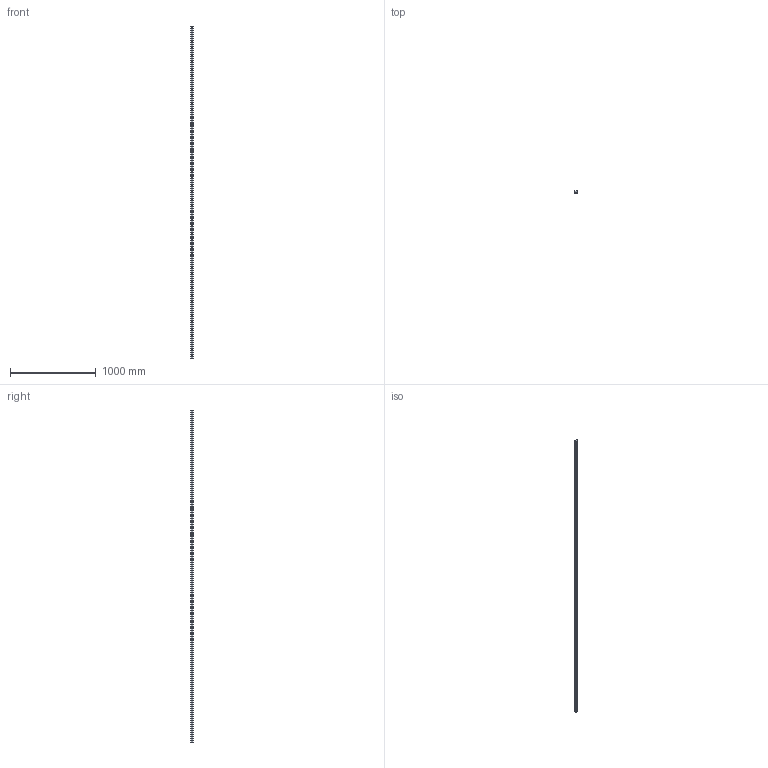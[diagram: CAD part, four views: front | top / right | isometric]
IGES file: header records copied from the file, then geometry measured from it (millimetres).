
Start section: SolidWorks IGES file using analytic representation for surfaces
Global section: file name: C:\Users\IanO\Desktop\Temp File\GENERAL\L1016_v2\L1016.RF35_v2\L1016.RF35_v2_20190612_IGES\L1016.RF35-3880.igs; native system: SolidWorks 2017; preprocessor: SolidWorks 2017; author: IanO; date: 190613.173502; units: millimetre
Bounding box: 34 x 26 x 3880 mm (x, y, z)
Surface area: 504888.7 mm2 (no closed solid volume)
Topology: 0 solids, 0 shells, 369 faces, 6048 edges, 5950 vertices
Faces by surface type: revolution 298, bspline 71
